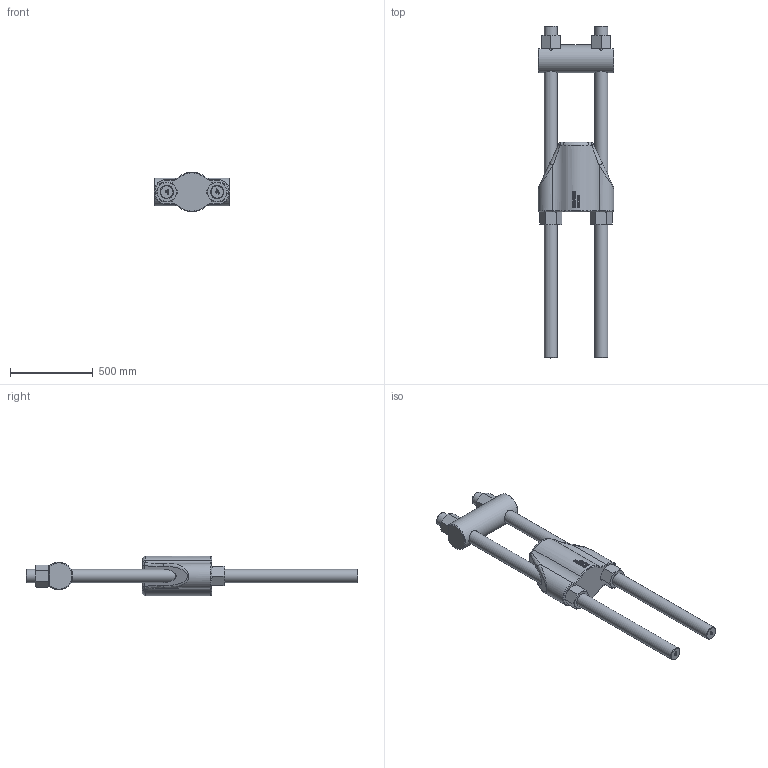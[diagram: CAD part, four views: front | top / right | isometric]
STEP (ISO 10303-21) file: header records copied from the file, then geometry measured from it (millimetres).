
FILE_DESCRIPTION(/* description */ (''),/* implementation_level */ '2;1');
FILE_NAME(/* name */ 'D:\Clienti\Redaelli (inventor)\BRC\STEP\Arrangemet\BRC076 72 111 0.stp',/* time_stamp */ '2021-05-08T08:33:45+02:00',/* author */ ('fabri'),/* organization */ (''),/* preprocessor_version */ 'ST-DEVELOPER v16.13',/* originating_system */ 'Autodesk Inventor 2018',/* authorisation */ '');
FILE_SCHEMA (('AUTOMOTIVE_DESIGN { 1 0 10303 214 3 1 1 }'));
Length unit declared in the file: millimetre
Products named in the file (5): BRC020 72 111 0; BRC020 71 112 0; BRC020 71 114 0_ROD; BRC020 71 113 0; BRC020 71 114 0_NUT
Assembly tree (8 placements, depth 2):
  BRC020 72 111 0
    BRC020 71 112 0
    BRC020 71 114 0_ROD  x2
    BRC020 71 113 0
    BRC020 71 114 0_NUT  x4
Bounding box: 456 x 2000 x 239.62 mm (x, y, z)
Volume: 54290086.9 mm3; surface area: 2268437.2 mm2
Topology: 8 solids, 8 shells, 1506 faces, 3978 edges, 2622 vertices
Faces by surface type: plane 717, bspline 655, cone 62, cylinder 48, torus 20, sphere 4
Full cylindrical faces by diameter (mm): 75.67 x4, 80 x2, 84 x4, 168 x1
Entity records: 29390 total; most frequent: CARTESIAN_POINT 11295, ORIENTED_EDGE 4306, DIRECTION 2565, EDGE_CURVE 2153, VERTEX_POINT 1426, LINE 1181, VECTOR 1181, EDGE_LOOP 913
